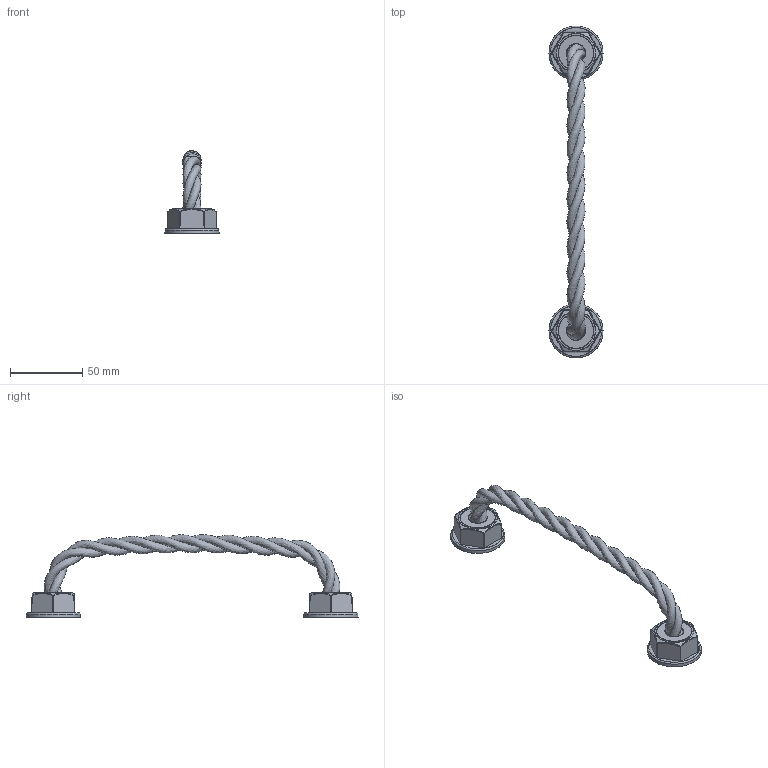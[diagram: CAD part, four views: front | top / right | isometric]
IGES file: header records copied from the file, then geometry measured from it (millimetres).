
Start section: C
Global section: file name: 8279-229.igs; native system: By Siemens PLM Incorporated; preprocessor: XPlus GENERIC/IGES 16.0.42; author: Author; organization: Title; date: 20200906.084020; units: millimetre
Bounding box: 37.4 x 229.4 x 57.11 mm (x, y, z)
Surface area: 24747.9 mm2 (no closed solid volume)
Topology: 0 solids, 0 shells, 203 faces, 1106 edges, 1106 vertices
Faces by surface type: bspline 203
